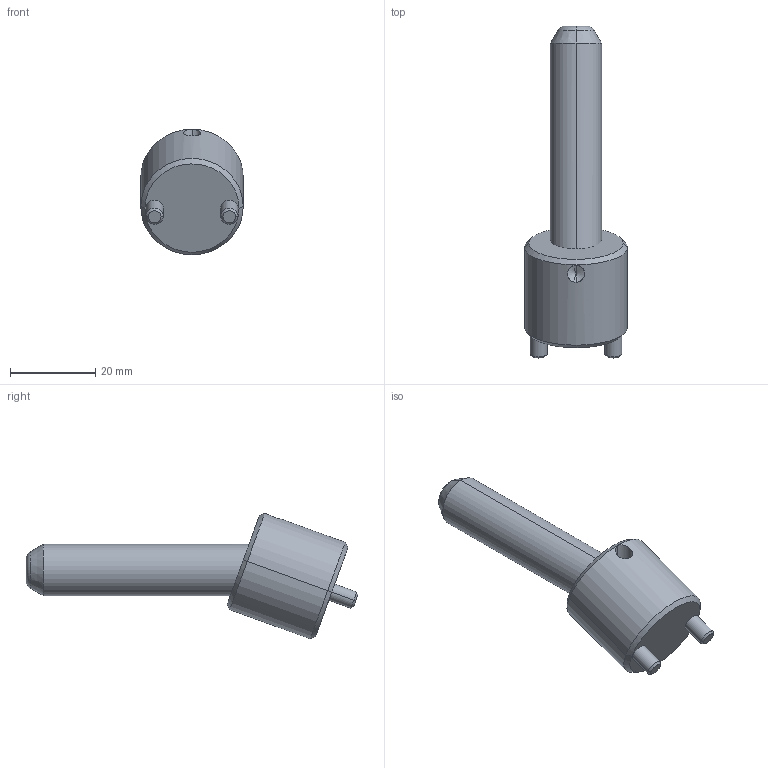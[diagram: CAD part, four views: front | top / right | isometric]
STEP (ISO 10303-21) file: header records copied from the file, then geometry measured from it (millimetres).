
FILE_DESCRIPTION(('CATIA V5 STEP Exchange'),'2;1');
FILE_NAME('C:\Users\Raffaele\Desktop\3D BOLEX\3D FILES CF BOLEX\19-INCLINED ASSEMBLY REF_CI\CI2012050.stp','2019-06-21T10:24:47+00:00',('none'),('none'),'CATIA Version 5 Release 20 GA (IN-10)','CATIA V5 STEP AP203','none');
FILE_SCHEMA(('CONFIG_CONTROL_DESIGN'));
Length unit declared in the file: millimetre
Products named in the file (1): CI2012050
Assembly tree (2 placements, depth 2):
  CI2012050
    #58
    #560
Bounding box: 24 x 77.68 x 29.39 mm (x, y, z)
Volume: 15373.2 mm3; surface area: 6071.8 mm2
Topology: 2 solids, 2 shells, 39 faces, 82 edges, 47 vertices
Faces by surface type: cone 14, cylinder 14, plane 7, torus 4
Entity records: 1446 total; most frequent: CARTESIAN_POINT 587, ORIENTED_EDGE 160, DIRECTION 145, EDGE_CURVE 80, AXIS2_PLACEMENT_3D 72, VERTEX_POINT 47, EDGE_LOOP 43, ADVANCED_FACE 39
